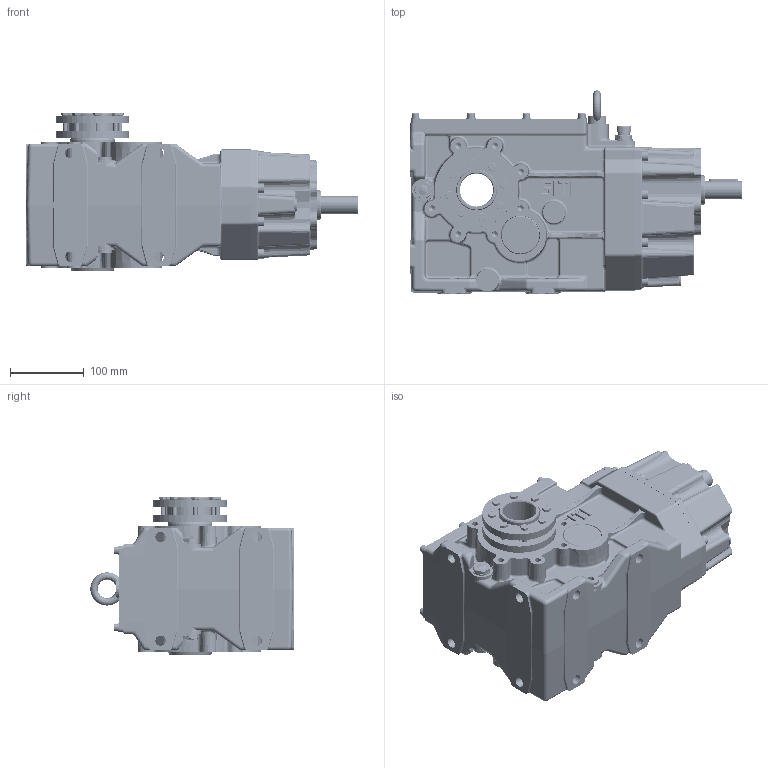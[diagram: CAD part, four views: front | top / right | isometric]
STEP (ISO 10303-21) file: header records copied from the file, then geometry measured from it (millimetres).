
FILE_DESCRIPTION((''),'2;1');
FILE_NAME('O:\Figurini\Figurini BH\3D\80\BH 80 CC-B.stp','2013-05-29T15:12:37',('d.iannaccio'),(''),'Autodesk Inventor 2012','Autodesk Inventor 2012','');
FILE_SCHEMA(('AUTOMOTIVE_DESIGN { 1 0 10303 214 1 1 1 1 }'));
Length unit declared in the file: millimetre
Products named in the file (1): BH_80 CC-B
Bounding box: 449 x 274.93 x 215 mm (x, y, z)
Volume: 3993007.9 mm3; surface area: 934318 mm2
Topology: 1 solids, 45 shells, 3599 faces, 8532 edges, 5042 vertices
Faces by surface type: cylinder 1083, plane 995, bspline 750, cone 350, torus 313, sphere 108
Full cylindrical faces by diameter (mm): 4.2 x1, 4.917 x8, 5 x1, 5.3 x1, 6 x32, 6.4 x8, 6.5 x16, 6.647 x16, 7 x8, 8 x14, 8.376 x15, 8.5 x2, 9 x8, 10 x16, 11.445 x1, 12.5 x8, 13 x8, 14 x8, 14.95 x7, 15.995 x1, 16 x2, 16.065 x1, 17 x1, 18 x1, 19 x1, 19.5 x1, 24 x1, 25 x1, 37.5 x2, 39.581 x1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
Entity records: 125455 total; most frequent: CARTESIAN_POINT 45430, DIRECTION 15685, ORIENTED_EDGE 15430, EDGE_CURVE 7715, AXIS2_PLACEMENT_3D 6555, VERTEX_POINT 4864, EDGE_LOOP 4347, STYLED_ITEM 3600
